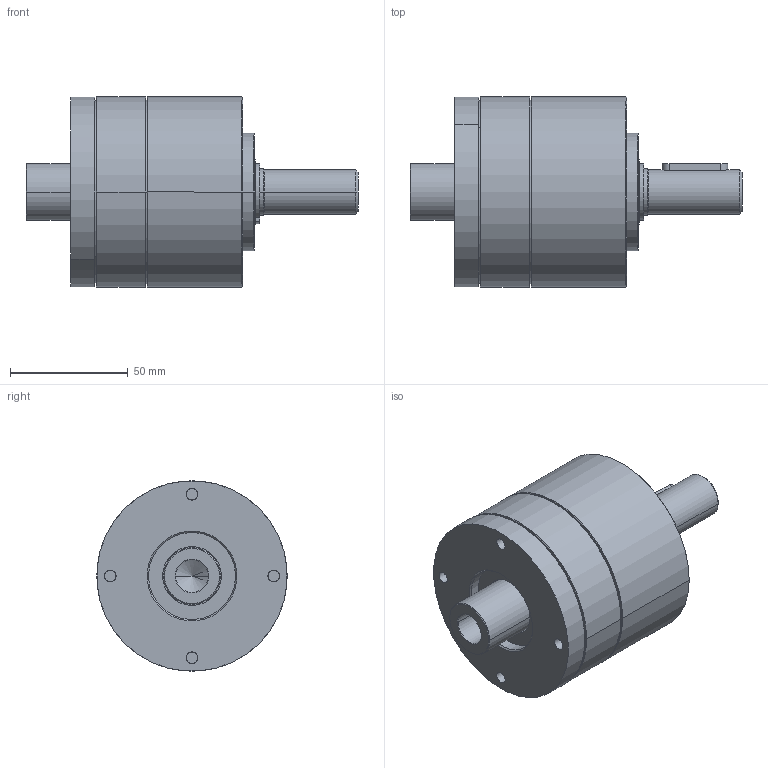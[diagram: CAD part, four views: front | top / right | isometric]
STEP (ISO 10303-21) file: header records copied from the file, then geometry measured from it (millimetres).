
FILE_DESCRIPTION((''),'2;1');
FILE_NAME('IMS81_PRO_1_STAGE_ASM','2024-09-02T13:10:06',('mhummel'),(''),'CREO PARAMETRIC BY PTC INC, 2020184','CREO PARAMETRIC BY PTC INC, 2020184','');
FILE_SCHEMA(('AUTOMOTIVE_DESIGN { 1 0 10303 214 1 1 1 1 }'));
Length unit declared in the file: millimetre
Products named in the file (14): IMS81_PRO_BEARING_FLANGE; IMS81_PRO_BALL_BEARING; IMS81_PRO_RING_GEAR_1_STAGE; IMS81_PRO_MOTOR_FLANGE; IMS81_PRO_SHIM_RING; IMS81_PRO_SHAFT_RAW_AF0; IMS81_PRO_SHAFT_ASM; IMS81_PRO_RETAINING_RING_A; IMS81_PRO_FEATHER_KEY; IMS81_PRO_THRUST_WASHER_1_STAGE; IMS81_PRO_SCREW_1_STAGE; IMS81_PRO_PINION_LONG; IMS81_PRO_PINION_SHORT; IMS81_PRO_1_STAGE_ASM
Assembly tree (17 placements, depth 3):
  IMS81_PRO_1_STAGE_ASM
    IMS81_PRO_BEARING_FLANGE
    IMS81_PRO_BALL_BEARING  x2
    IMS81_PRO_RING_GEAR_1_STAGE
    IMS81_PRO_MOTOR_FLANGE
    IMS81_PRO_SHIM_RING
    IMS81_PRO_SHAFT_ASM
      IMS81_PRO_SHAFT_RAW_AF0
    IMS81_PRO_RETAINING_RING_A
    IMS81_PRO_FEATHER_KEY
    IMS81_PRO_THRUST_WASHER_1_STAGE
    IMS81_PRO_SCREW_1_STAGE  x4
    IMS81_PRO_PINION_LONG
    IMS81_PRO_PINION_SHORT
Bounding box: 141.15 x 81 x 81 mm (x, y, z)
Volume: 327183.8 mm3; surface area: 107237.8 mm2
Topology: 20 solids, 22 shells, 396 faces, 845 edges, 506 vertices
Faces by surface type: cylinder 156, plane 96, cone 92, torus 52
Entity records: 11634 total; most frequent: DIRECTION 1701, CARTESIAN_POINT 1457, ORIENTED_EDGE 1294, AXIS2_PLACEMENT_3D 720, PRESENTATION_STYLE_ASSIGNMENT 704, STYLED_ITEM 693, CURVE_STYLE 647, EDGE_CURVE 647
